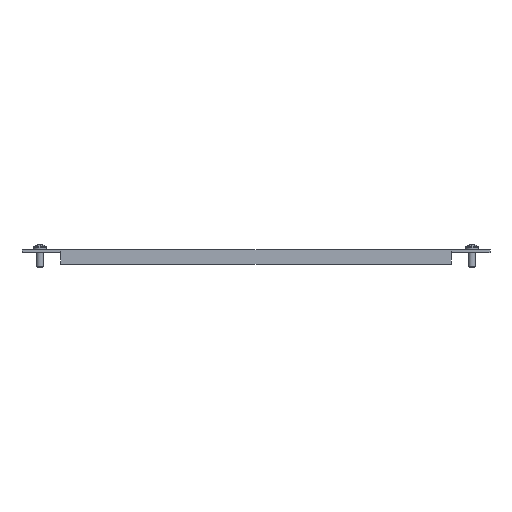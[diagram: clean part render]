
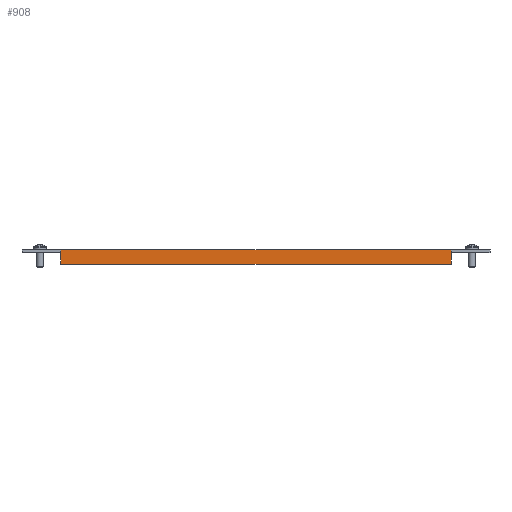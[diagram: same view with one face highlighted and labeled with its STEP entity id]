
A CAD part, front view. The second image highlights one B-rep face of the part: STEP entity #908.
In plain terms, the highlighted planar face has unit normal (0, -1, 0).
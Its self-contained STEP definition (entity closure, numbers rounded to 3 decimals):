
#4 = VECTOR ( 'NONE', #2658, 1000. ) ;
#102 = FACE_OUTER_BOUND ( 'NONE', #968, .T. ) ;
#142 = CARTESIAN_POINT ( 'NONE',  ( -135.5, -199., 0. ) ) ;
#328 = ORIENTED_EDGE ( 'NONE', *, *, #3160, .T. ) ;
#434 = DIRECTION ( 'NONE',  ( 0., 0., 1. ) ) ;
#656 = CARTESIAN_POINT ( 'NONE',  ( 135.5, -199., -10. ) ) ;
#709 = VERTEX_POINT ( 'NONE', #1320 ) ;
#876 = LINE ( 'NONE', #142, #2225 ) ;
#881 = VECTOR ( 'NONE', #1197, 1000. ) ;
#886 = LINE ( 'NONE', #1305, #3281 ) ;
#908 = ADVANCED_FACE ( 'NONE', ( #102 ), #3954, .T. ) ;
#968 = EDGE_LOOP ( 'NONE', ( #2941, #1704, #328, #1245, #2598, #3672 ) ) ;
#1005 = DIRECTION ( 'NONE',  ( 0., -1., 0. ) ) ;
#1021 = VERTEX_POINT ( 'NONE', #3317 ) ;
#1047 = AXIS2_PLACEMENT_3D ( 'NONE', #1424, #1005, #2008 ) ;
#1160 = EDGE_CURVE ( 'NONE', #2536, #1021, #876, .T. ) ;
#1196 = DIRECTION ( 'NONE',  ( 0., 0., 1. ) ) ;
#1197 = DIRECTION ( 'NONE',  ( -1., 0., 0. ) ) ;
#1245 = ORIENTED_EDGE ( 'NONE', *, *, #1160, .F. ) ;
#1305 = CARTESIAN_POINT ( 'NONE',  ( -135.5, -199., -10. ) ) ;
#1320 = CARTESIAN_POINT ( 'NONE',  ( 135.5, -199., 0. ) ) ;
#1349 = CARTESIAN_POINT ( 'NONE',  ( 135.5, -199., -10. ) ) ;
#1424 = CARTESIAN_POINT ( 'NONE',  ( 0., -199., 0. ) ) ;
#1704 = ORIENTED_EDGE ( 'NONE', *, *, #3948, .T. ) ;
#1786 = LINE ( 'NONE', #3141, #2302 ) ;
#1940 = CARTESIAN_POINT ( 'NONE',  ( -135.5, -199., -2.4 ) ) ;
#2008 = DIRECTION ( 'NONE',  ( 0., 0., -1. ) ) ;
#2135 = VECTOR ( 'NONE', #434, 1000. ) ;
#2225 = VECTOR ( 'NONE', #2767, 1000. ) ;
#2302 = VECTOR ( 'NONE', #1196, 1000. ) ;
#2381 = VERTEX_POINT ( 'NONE', #656 ) ;
#2536 = VERTEX_POINT ( 'NONE', #1940 ) ;
#2598 = ORIENTED_EDGE ( 'NONE', *, *, #2897, .F. ) ;
#2632 = LINE ( 'NONE', #1349, #4 ) ;
#2658 = DIRECTION ( 'NONE',  ( 0., 0., -1. ) ) ;
#2667 = VERTEX_POINT ( 'NONE', #2997 ) ;
#2767 = DIRECTION ( 'NONE',  ( 0., 0., 1. ) ) ;
#2897 = EDGE_CURVE ( 'NONE', #2667, #2536, #1786, .T. ) ;
#2941 = ORIENTED_EDGE ( 'NONE', *, *, #3434, .F. ) ;
#2997 = CARTESIAN_POINT ( 'NONE',  ( -135.5, -199., -10. ) ) ;
#3141 = CARTESIAN_POINT ( 'NONE',  ( -135.5, -199., -1.8 ) ) ;
#3155 = DIRECTION ( 'NONE',  ( -1., 0., 0. ) ) ;
#3160 = EDGE_CURVE ( 'NONE', #709, #1021, #4136, .T. ) ;
#3281 = VECTOR ( 'NONE', #3155, 1000. ) ;
#3317 = CARTESIAN_POINT ( 'NONE',  ( -135.5, -199., 0. ) ) ;
#3377 = VERTEX_POINT ( 'NONE', #3946 ) ;
#3434 = EDGE_CURVE ( 'NONE', #3377, #2381, #2632, .T. ) ;
#3672 = ORIENTED_EDGE ( 'NONE', *, *, #3715, .F. ) ;
#3715 = EDGE_CURVE ( 'NONE', #2381, #2667, #886, .T. ) ;
#3752 = CARTESIAN_POINT ( 'NONE',  ( 0., -199., 0. ) ) ;
#3763 = CARTESIAN_POINT ( 'NONE',  ( 135.5, -199., -2.4 ) ) ;
#3946 = CARTESIAN_POINT ( 'NONE',  ( 135.5, -199., -2.4 ) ) ;
#3948 = EDGE_CURVE ( 'NONE', #3377, #709, #3962, .T. ) ;
#3954 = PLANE ( 'NONE',  #1047 ) ;
#3962 = LINE ( 'NONE', #3763, #2135 ) ;
#4136 = LINE ( 'NONE', #3752, #881 ) ;
